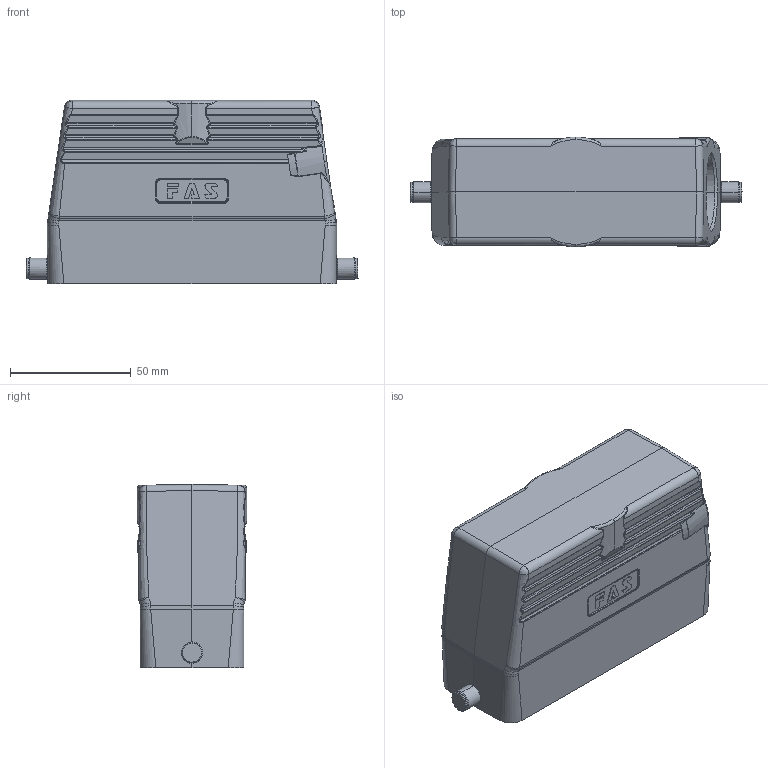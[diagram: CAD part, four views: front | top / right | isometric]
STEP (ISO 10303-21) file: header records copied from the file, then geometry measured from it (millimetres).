
FILE_DESCRIPTION (( 'STEP AP203' ), '1' );
FILE_NAME ('H24B-TSH-RO-M25&M32&M40.STEP', '2021-01-18T05:56:42', ( '' ), ( '' ), 'SwSTEP 2.0', 'SolidWorks 2016', '' );
FILE_SCHEMA (( 'CONFIG_CONTROL_DESIGN' ));
Length unit declared in the file: millimetre
Products named in the file (3): H24B-TSH-奻褲; H24B-TSH-RO-M25&M32&M40; H24B-RO-坶踡璃
Assembly tree (3 placements, depth 2):
  H24B-TSH-RO-M25&M32&M40
    H24B-RO-坶踡璃  x2
    H24B-TSH-奻褲
Bounding box: 137.69 x 45.5 x 76 mm (x, y, z)
Volume: 110735.9 mm3; surface area: 52880.1 mm2
Topology: 3 solids, 3 shells, 665 faces, 1596 edges, 963 vertices
Faces by surface type: bspline 228, cylinder 219, plane 155, cone 63
Entity records: 29509 total; most frequent: CARTESIAN_POINT 16627, ORIENTED_EDGE 3066, DIRECTION 1979, EDGE_CURVE 1533, VERTEX_POINT 925, AXIS2_PLACEMENT_3D 719, EDGE_LOOP 658, FACE_OUTER_BOUND 634
